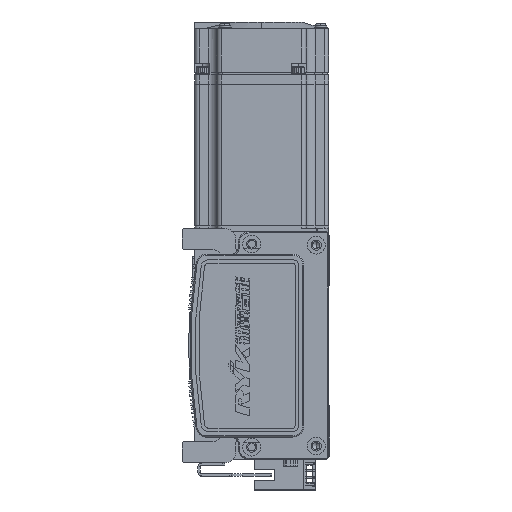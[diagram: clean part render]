
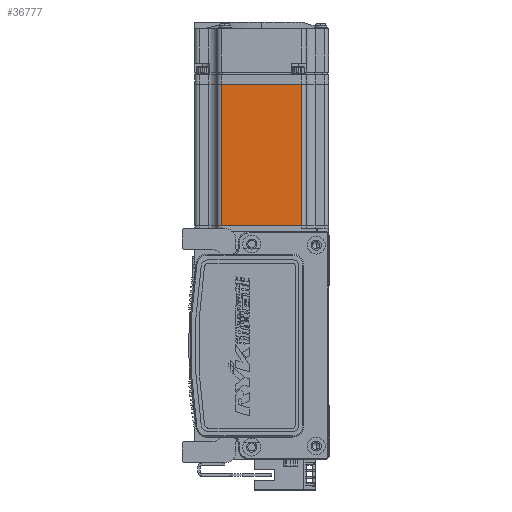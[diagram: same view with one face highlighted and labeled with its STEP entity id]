
A CAD part, left-side view. The second image highlights one B-rep face of the part: STEP entity #36777.
In plain terms, the highlighted planar face has unit normal (-1, 0, 0) as drawn and (0, 0, -1) by its records, which use the part's own axes.
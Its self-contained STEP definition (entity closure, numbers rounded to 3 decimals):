
#1321 = EDGE_CURVE ( 'NONE', #27438, #31455, #22825, .T. ) ;
#3255 = ORIENTED_EDGE ( 'NONE', *, *, #29177, .T. ) ;
#3326 = EDGE_CURVE ( 'NONE', #31455, #66077, #18324, .T. ) ;
#3551 = DIRECTION ( 'NONE',  ( 0., 1., 0. ) ) ;
#3799 = DIRECTION ( 'NONE',  ( 0., 0., -1. ) ) ;
#6312 = CARTESIAN_POINT ( 'NONE',  ( -7.75, -18., -30. ) ) ;
#7458 = DIRECTION ( 'NONE',  ( 1., 0., 0. ) ) ;
#7662 = CARTESIAN_POINT ( 'NONE',  ( -7.75, 18., -30. ) ) ;
#10949 = LINE ( 'NONE', #33622, #48313 ) ;
#13438 = CARTESIAN_POINT ( 'NONE',  ( -70.95, 18., -30. ) ) ;
#13713 = ORIENTED_EDGE ( 'NONE', *, *, #63860, .T. ) ;
#17883 = CARTESIAN_POINT ( 'NONE',  ( -6.5, -18., -30. ) ) ;
#18324 = LINE ( 'NONE', #58169, #35351 ) ;
#22825 = LINE ( 'NONE', #17883, #36522 ) ;
#23101 = EDGE_LOOP ( 'NONE', ( #3255, #60353, #60525, #13713 ) ) ;
#23136 = DIRECTION ( 'NONE',  ( 0., -1., 0. ) ) ;
#23875 = AXIS2_PLACEMENT_3D ( 'NONE', #58413, #3799, #36393 ) ;
#27438 = VERTEX_POINT ( 'NONE', #6312 ) ;
#29073 = CARTESIAN_POINT ( 'NONE',  ( -6.5, 18., -30. ) ) ;
#29177 = EDGE_CURVE ( 'NONE', #62621, #27438, #10949, .T. ) ;
#31455 = VERTEX_POINT ( 'NONE', #39950 ) ;
#33611 = FACE_OUTER_BOUND ( 'NONE', #23101, .T. ) ;
#33622 = CARTESIAN_POINT ( 'NONE',  ( -7.75, 25., -30. ) ) ;
#34538 = DIRECTION ( 'NONE',  ( -1., 0., 0. ) ) ;
#35351 = VECTOR ( 'NONE', #3551, 1000. ) ;
#35606 = VECTOR ( 'NONE', #7458, 1000. ) ;
#36393 = DIRECTION ( 'NONE',  ( -1., 0., 0. ) ) ;
#36522 = VECTOR ( 'NONE', #34538, 1000. ) ;
#36777 = ADVANCED_FACE ( 'NONE', ( #33611 ), #57955, .T. ) ;
#39950 = CARTESIAN_POINT ( 'NONE',  ( -70.95, -18., -30. ) ) ;
#48313 = VECTOR ( 'NONE', #23136, 1000. ) ;
#56036 = LINE ( 'NONE', #29073, #35606 ) ;
#57955 = PLANE ( 'NONE',  #23875 ) ;
#58169 = CARTESIAN_POINT ( 'NONE',  ( -70.95, 25., -30. ) ) ;
#58413 = CARTESIAN_POINT ( 'NONE',  ( -6.5, 25., -30. ) ) ;
#60353 = ORIENTED_EDGE ( 'NONE', *, *, #1321, .T. ) ;
#60525 = ORIENTED_EDGE ( 'NONE', *, *, #3326, .T. ) ;
#62621 = VERTEX_POINT ( 'NONE', #7662 ) ;
#63860 = EDGE_CURVE ( 'NONE', #66077, #62621, #56036, .T. ) ;
#66077 = VERTEX_POINT ( 'NONE', #13438 ) ;
